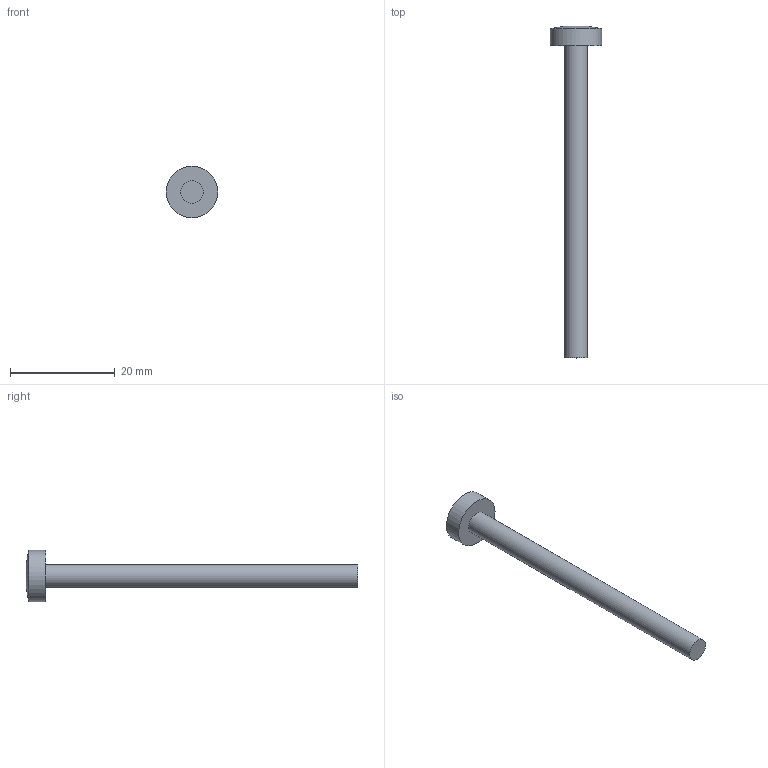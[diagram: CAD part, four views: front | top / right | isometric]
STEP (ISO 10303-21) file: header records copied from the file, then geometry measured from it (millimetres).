
FILE_DESCRIPTION(/* description */ ('STEP AP242 Edition 2','CAx-IF Rec.Pracs.---Representation and Presentation of Product Manufacturing Information (PMI)---4.0---2014-10-13','CAx-IF Rec.Pracs.---3D Tessellated Geometry---0.4---2014-09-14','2;1','CAx-IF Rec.Pracs.---User Defined Attributes---1.5---2016-08-15'),/* implementation_level */ '2;1');
FILE_NAME(/* name */ 'Assembly 1 - gjengestang',/* time_stamp */ '2026-02-04T12:55:11Z',/* author */ (''),/* organization */ (''),/* preprocessor_version */ 'ST-DEVELOPER v20',/* originating_system */ 'ONSHAPE BY PTC INC, 1.210',/* authorisation */ ' ');
FILE_SCHEMA (('AP242_MANAGED_MODEL_BASED_3D_ENGINEERING_MIM_LF { 1 0 10303 442 3 1 4 }'));
Length unit declared in the file: metre
Products named in the file (1): gjengestang
Bounding box: 9.84 x 63.24 x 9.84 mm (x, y, z)
Volume: 1139.9 mm3; surface area: 1061.2 mm2
Topology: 1 solids, 1 shells, 6 faces, 8 edges, 5 vertices
Faces by surface type: plane 3, cylinder 2, cone 1
Full cylindrical faces by diameter (mm): 4.32 x1, 9.84 x1
Entity records: 136 total; most frequent: DIRECTION 24, CARTESIAN_POINT 17, AXIS2_PLACEMENT_3D 12, ORIENTED_EDGE 10, EDGE_LOOP 10, FACE_BOUND 10, ADVANCED_FACE 6, EDGE_CURVE 5
